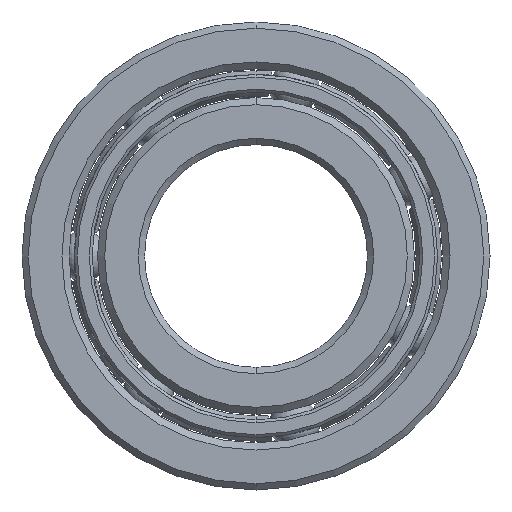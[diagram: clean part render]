
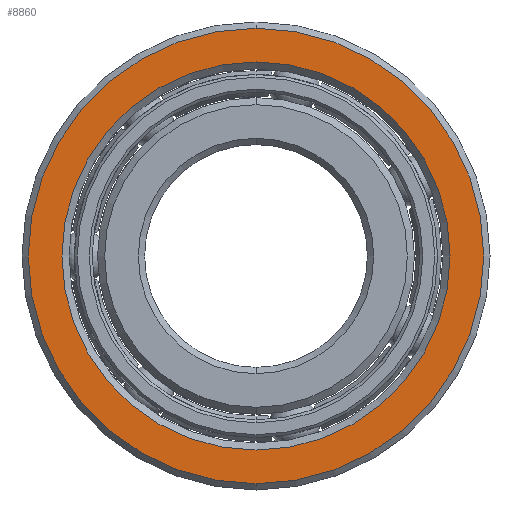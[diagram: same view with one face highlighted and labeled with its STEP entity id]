
A CAD part, front view. The second image highlights one B-rep face of the part: STEP entity #8860.
In plain terms, the highlighted planar face has unit normal (0, -1, 0).
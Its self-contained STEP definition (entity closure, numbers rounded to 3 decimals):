
#94 = FACE_OUTER_BOUND ( 'NONE', #9427, .T. ) ;
#104 = CIRCLE ( 'NONE', #6162, 17.418 ) ;
#275 = AXIS2_PLACEMENT_3D ( 'NONE', #2937, #3722, #6941 ) ;
#429 = AXIS2_PLACEMENT_3D ( 'NONE', #5630, #3315, #1817 ) ;
#1253 = VERTEX_POINT ( 'NONE', #8387 ) ;
#1285 = CIRCLE ( 'NONE', #9720, 20.44 ) ;
#1332 = DIRECTION ( 'NONE',  ( 0., 1., 0. ) ) ;
#1642 = DIRECTION ( 'NONE',  ( 0., 0., -1. ) ) ;
#1817 = DIRECTION ( 'NONE',  ( 0., 0., -1. ) ) ;
#1975 = VERTEX_POINT ( 'NONE', #8109 ) ;
#2677 = DIRECTION ( 'NONE',  ( 0., 1., 0. ) ) ;
#2937 = CARTESIAN_POINT ( 'NONE',  ( 0., -4., 0. ) ) ;
#3315 = DIRECTION ( 'NONE',  ( 0., -1., 0. ) ) ;
#3428 = CIRCLE ( 'NONE', #8474, 17.418 ) ;
#3722 = DIRECTION ( 'NONE',  ( 0., -1., 0. ) ) ;
#4402 = ORIENTED_EDGE ( 'NONE', *, *, #6584, .T. ) ;
#4657 = CARTESIAN_POINT ( 'NONE',  ( 0., -4., -20.44 ) ) ;
#5019 = CARTESIAN_POINT ( 'NONE',  ( 0., -4., 0. ) ) ;
#5444 = EDGE_CURVE ( 'NONE', #8058, #1975, #1285, .T. ) ;
#5630 = CARTESIAN_POINT ( 'NONE',  ( 0., -4., 0. ) ) ;
#5909 = EDGE_LOOP ( 'NONE', ( #6377, #4402 ) ) ;
#6002 = EDGE_CURVE ( 'NONE', #1975, #8058, #9365, .T. ) ;
#6162 = AXIS2_PLACEMENT_3D ( 'NONE', #9913, #2677, #9801 ) ;
#6377 = ORIENTED_EDGE ( 'NONE', *, *, #8138, .T. ) ;
#6584 = EDGE_CURVE ( 'NONE', #6805, #1253, #3428, .T. ) ;
#6805 = VERTEX_POINT ( 'NONE', #8236 ) ;
#6866 = CARTESIAN_POINT ( 'NONE',  ( 0., -4., 0. ) ) ;
#6941 = DIRECTION ( 'NONE',  ( 0., 0., -1. ) ) ;
#8058 = VERTEX_POINT ( 'NONE', #4657 ) ;
#8109 = CARTESIAN_POINT ( 'NONE',  ( 0., -4., 20.44 ) ) ;
#8138 = EDGE_CURVE ( 'NONE', #1253, #6805, #104, .T. ) ;
#8236 = CARTESIAN_POINT ( 'NONE',  ( 0., -4., 17.418 ) ) ;
#8387 = CARTESIAN_POINT ( 'NONE',  ( 0., -4., -17.418 ) ) ;
#8474 = AXIS2_PLACEMENT_3D ( 'NONE', #6866, #1332, #8497 ) ;
#8497 = DIRECTION ( 'NONE',  ( 0., 0., -1. ) ) ;
#8860 = ADVANCED_FACE ( 'NONE', ( #9743, #94 ), #9004, .T. ) ;
#9004 = PLANE ( 'NONE',  #429 ) ;
#9027 = DIRECTION ( 'NONE',  ( 0., -1., 0. ) ) ;
#9173 = ORIENTED_EDGE ( 'NONE', *, *, #6002, .T. ) ;
#9365 = CIRCLE ( 'NONE', #275, 20.44 ) ;
#9427 = EDGE_LOOP ( 'NONE', ( #9173, #10332 ) ) ;
#9720 = AXIS2_PLACEMENT_3D ( 'NONE', #5019, #9027, #1642 ) ;
#9743 = FACE_BOUND ( 'NONE', #5909, .T. ) ;
#9801 = DIRECTION ( 'NONE',  ( 0., 0., -1. ) ) ;
#9913 = CARTESIAN_POINT ( 'NONE',  ( 0., -4., 0. ) ) ;
#10332 = ORIENTED_EDGE ( 'NONE', *, *, #5444, .T. ) ;
